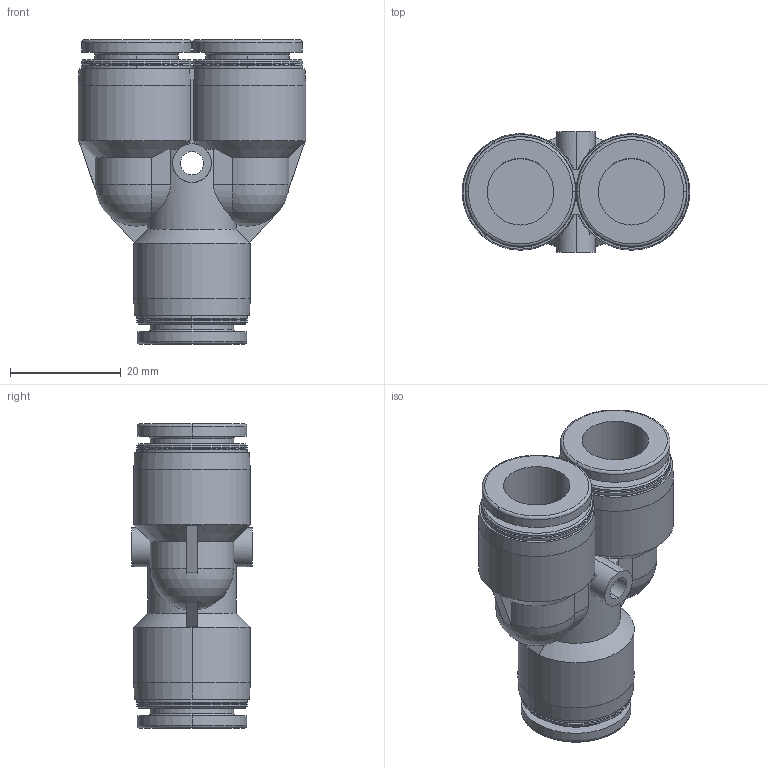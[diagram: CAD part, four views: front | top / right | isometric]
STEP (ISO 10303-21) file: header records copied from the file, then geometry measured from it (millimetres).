
FILE_DESCRIPTION(/* description */ ('AP214 STEP file'),/* implementation_level */ '2;1');
FILE_NAME(/* name */ 'PY12_',/* time_stamp */ '2015-12-22T13:04:43+09:00',/* author */ (''),/* organization */ (''),/* preprocessor_version */ '.stp',/* originating_system */ 'UNIGRAPHICS',/* authorisation */ '');
FILE_SCHEMA (('AUTOMOTIVE_DESIGN'));
Length unit declared in the file: millimetre
Products named in the file (1): PY12_
Bounding box: 41 x 21.7 x 54.8 mm (x, y, z)
Volume: 17418.9 mm3; surface area: 9983.1 mm2
Topology: 1 solids, 1 shells, 134 faces, 328 edges, 208 vertices
Faces by surface type: cylinder 50, plane 38, cone 32, torus 12, sphere 2
Entity records: 3826 total; most frequent: CARTESIAN_POINT 841, ORIENTED_EDGE 656, EDGE_CURVE 328, STYLED_ITEM 328, AXIS2_PLACEMENT_3D 307, VERTEX_POINT 208, CIRCLE 172, EDGE_LOOP 148
